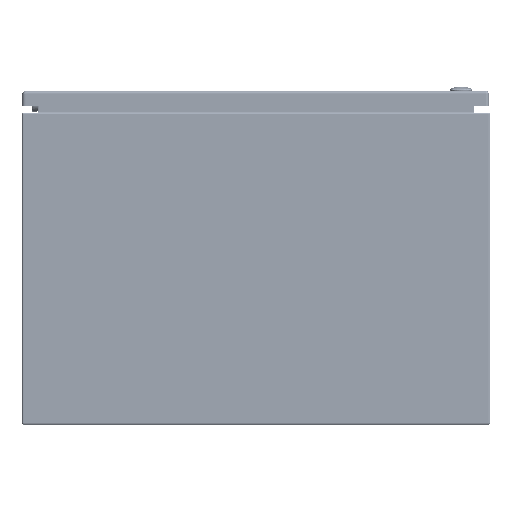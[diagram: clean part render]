
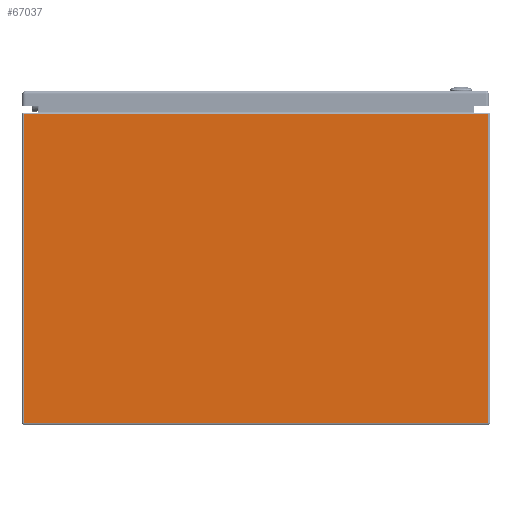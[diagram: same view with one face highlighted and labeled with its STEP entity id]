
A CAD part, front view. The second image highlights one B-rep face of the part: STEP entity #67037.
In plain terms, the highlighted planar face has unit normal (0, -1, 0).
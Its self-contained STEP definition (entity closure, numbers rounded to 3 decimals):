
#6486=LINE('',#94281,#10613);
#6493=LINE('',#94296,#10620);
#6495=LINE('',#94303,#10622);
#6497=LINE('',#94312,#10624);
#10613=VECTOR('',#78183,0.394);
#10620=VECTOR('',#78196,0.394);
#10622=VECTOR('',#78204,0.394);
#10624=VECTOR('',#78216,0.394);
#15825=FACE_OUTER_BOUND('',#19941,.T.);
#19941=EDGE_LOOP('',(#44658,#44659,#44660,#44661));
#26960=VERTEX_POINT('',#94251);
#26967=VERTEX_POINT('',#94277);
#26972=VERTEX_POINT('',#94295);
#26974=VERTEX_POINT('',#94301);
#33813=EDGE_CURVE('',#26960,#26967,#6486,.T.);
#33820=EDGE_CURVE('',#26967,#26972,#6493,.T.);
#33824=EDGE_CURVE('',#26974,#26960,#6495,.T.);
#33829=EDGE_CURVE('',#26974,#26972,#6497,.T.);
#44658=ORIENTED_EDGE('',*,*,#33813,.F.);
#44659=ORIENTED_EDGE('',*,*,#33824,.F.);
#44660=ORIENTED_EDGE('',*,*,#33829,.T.);
#44661=ORIENTED_EDGE('',*,*,#33820,.F.);
#65609=PLANE('',#72064);
#67037=ADVANCED_FACE('',(#15825),#65609,.F.);
#72064=AXIS2_PLACEMENT_3D('',#94323,#78230,#78231);
#78183=DIRECTION('',(1.,0.,0.));
#78196=DIRECTION('',(0.,0.,-1.));
#78204=DIRECTION('',(0.,0.,1.));
#78216=DIRECTION('',(1.,0.,0.));
#78230=DIRECTION('center_axis',(0.,1.,0.));
#78231=DIRECTION('ref_axis',(0.,0.,1.));
#94251=CARTESIAN_POINT('',(-11.916,-18.,15.916));
#94277=CARTESIAN_POINT('',(11.916,-18.,15.916));
#94281=CARTESIAN_POINT('',(5.979,-18.,15.916));
#94295=CARTESIAN_POINT('',(11.916,-18.,0.084));
#94296=CARTESIAN_POINT('',(11.916,-18.,8.));
#94301=CARTESIAN_POINT('',(-11.916,-18.,0.084));
#94303=CARTESIAN_POINT('',(-11.916,-18.,8.));
#94312=CARTESIAN_POINT('',(-5.958,-18.,0.084));
#94323=CARTESIAN_POINT('Origin',(0.,-18.,8.));
